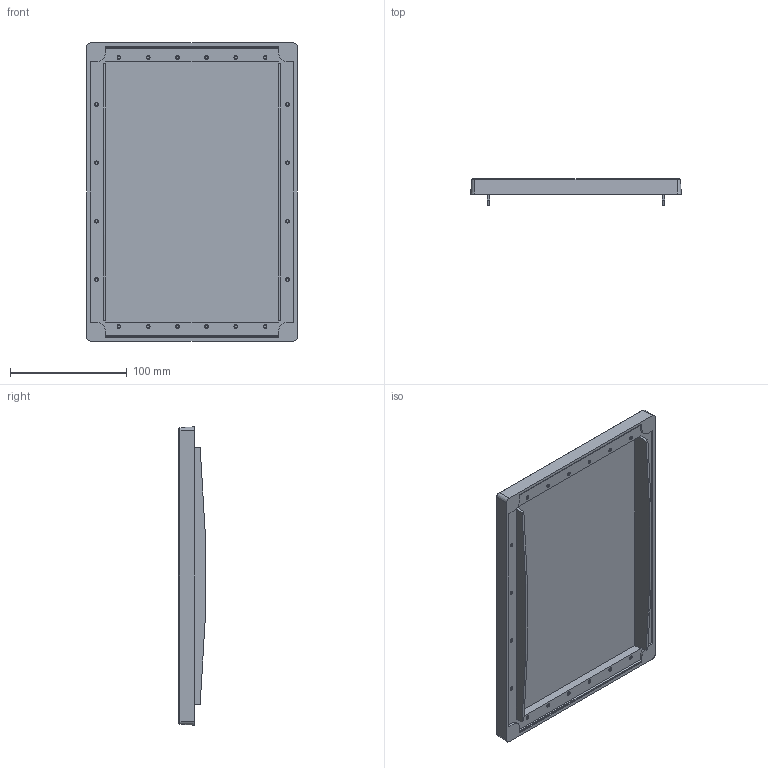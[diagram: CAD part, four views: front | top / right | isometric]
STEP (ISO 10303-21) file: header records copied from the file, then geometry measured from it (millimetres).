
FILE_DESCRIPTION (( 'STEP AP203' ), '1' );
FILE_NAME ('FIBOX_MNX20013C.STEP', '2005-06-30T06:44:12', ( ' ' ), ( ' ' ), 'SwSTEP 2.0', 'SolidWorks 2005143', '' );
FILE_SCHEMA (( 'CONFIG_CONTROL_DESIGN' ));
Length unit declared in the file: millimetre
Products named in the file (1): FIBOX_MNX20013C
Bounding box: 180 x 22.66 x 255 mm (x, y, z)
Volume: 268777.3 mm3; surface area: 120426.2 mm2
Topology: 1 solids, 1 shells, 189 faces, 412 edges, 272 vertices
Faces by surface type: cylinder 90, plane 87, cone 12
Entity records: 5319 total; most frequent: DIRECTION 992, CARTESIAN_POINT 874, ORIENTED_EDGE 824, EDGE_CURVE 412, AXIS2_PLACEMENT_3D 390, VERTEX_POINT 272, EDGE_LOOP 236, VECTOR 212
